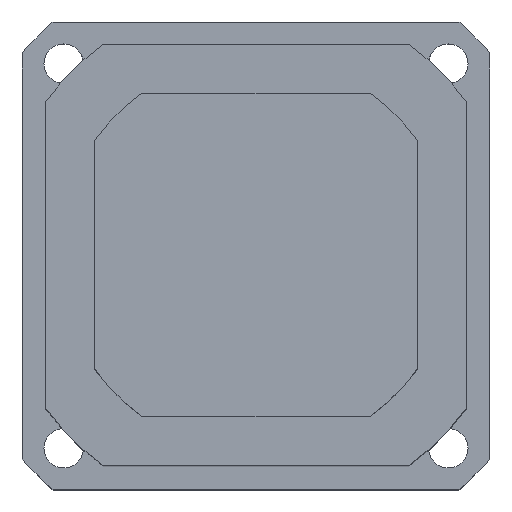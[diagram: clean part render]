
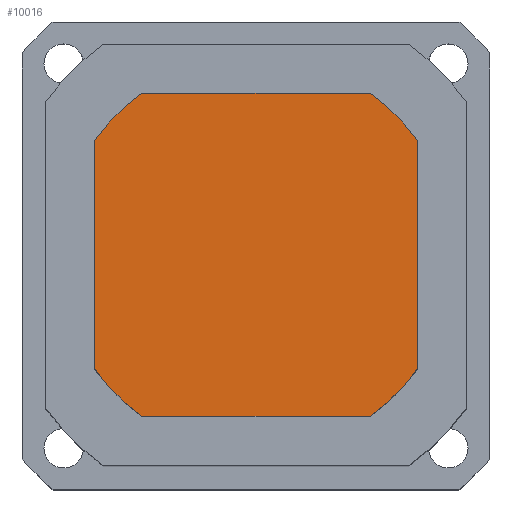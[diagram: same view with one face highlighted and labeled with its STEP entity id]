
A CAD part, top view. The second image highlights one B-rep face of the part: STEP entity #10016.
In plain terms, the highlighted planar face has unit normal (0, 0, 1).
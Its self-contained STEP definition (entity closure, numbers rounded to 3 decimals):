
#2698=CIRCLE('',#10947,60.);
#2699=CIRCLE('',#10949,60.);
#2700=CIRCLE('',#10951,60.);
#2701=CIRCLE('',#10953,60.);
#3664=VERTEX_POINT('',#15680);
#3665=VERTEX_POINT('',#15682);
#3666=VERTEX_POINT('',#15686);
#3667=VERTEX_POINT('',#15688);
#3672=VERTEX_POINT('',#15704);
#3673=VERTEX_POINT('',#15706);
#3674=VERTEX_POINT('',#15710);
#3675=VERTEX_POINT('',#15712);
#4591=LINE('',#15681,#12012);
#4594=LINE('',#15687,#12015);
#4597=LINE('',#15705,#12018);
#4600=LINE('',#15711,#12021);
#5609=EDGE_CURVE('',#3665,#3664,#4591,.T.);
#5612=EDGE_CURVE('',#3667,#3666,#4594,.T.);
#5619=EDGE_CURVE('',#3673,#3672,#4597,.T.);
#5622=EDGE_CURVE('',#3675,#3674,#4600,.T.);
#5624=EDGE_CURVE('',#3667,#3674,#2698,.T.);
#5625=EDGE_CURVE('',#3673,#3666,#2699,.T.);
#5626=EDGE_CURVE('',#3665,#3672,#2700,.T.);
#5627=EDGE_CURVE('',#3675,#3664,#2701,.T.);
#7758=ORIENTED_EDGE('',*,*,#5609,.T.);
#7759=ORIENTED_EDGE('',*,*,#5627,.F.);
#7760=ORIENTED_EDGE('',*,*,#5622,.T.);
#7761=ORIENTED_EDGE('',*,*,#5624,.F.);
#7762=ORIENTED_EDGE('',*,*,#5612,.T.);
#7763=ORIENTED_EDGE('',*,*,#5625,.F.);
#7764=ORIENTED_EDGE('',*,*,#5619,.T.);
#7765=ORIENTED_EDGE('',*,*,#5626,.F.);
#8811=EDGE_LOOP('',(#7758,#7759,#7760,#7761,#7762,#7763,#7764,#7765));
#9471=FACE_BOUND('',#8811,.T.);
#10016=ADVANCED_FACE('',(#9471),#12361,.F.);
#10947=AXIS2_PLACEMENT_3D('',#15715,#18990,#18991);
#10949=AXIS2_PLACEMENT_3D('',#15717,#18994,#18995);
#10951=AXIS2_PLACEMENT_3D('',#15719,#18998,#18999);
#10953=AXIS2_PLACEMENT_3D('',#15721,#19002,#19003);
#10954=AXIS2_PLACEMENT_3D('',#15722,#19004,$);
#12012=VECTOR('',#18960,1.);
#12015=VECTOR('',#18964,1.);
#12018=VECTOR('',#18982,1.);
#12021=VECTOR('',#18986,1.);
#12361=PLANE('',#10954);
#15680=CARTESIAN_POINT('',(-49.,-34.627,45.));
#15681=CARTESIAN_POINT('',(-49.,34.627,45.));
#15682=CARTESIAN_POINT('',(-49.,34.627,45.));
#15686=CARTESIAN_POINT('',(49.,34.627,45.));
#15687=CARTESIAN_POINT('',(49.,-34.627,45.));
#15688=CARTESIAN_POINT('',(49.,-34.627,45.));
#15704=CARTESIAN_POINT('',(-34.627,49.,45.));
#15705=CARTESIAN_POINT('',(34.627,49.,45.));
#15706=CARTESIAN_POINT('',(34.627,49.,45.));
#15710=CARTESIAN_POINT('',(34.627,-49.,45.));
#15711=CARTESIAN_POINT('',(-34.627,-49.,45.));
#15712=CARTESIAN_POINT('',(-34.627,-49.,45.));
#15715=CARTESIAN_POINT('',(0.,0.,45.));
#15717=CARTESIAN_POINT('',(0.,0.,45.));
#15719=CARTESIAN_POINT('',(0.,0.,45.));
#15721=CARTESIAN_POINT('',(0.,0.,45.));
#15722=CARTESIAN_POINT('',(0.,0.,45.));
#18960=DIRECTION('',(0.,-1.,0.));
#18964=DIRECTION('',(0.,1.,0.));
#18982=DIRECTION('',(-1.,0.,0.));
#18986=DIRECTION('',(1.,0.,0.));
#18990=DIRECTION('',(0.,0.,-1.));
#18991=DIRECTION('',(-60.,0.,0.));
#18994=DIRECTION('',(0.,0.,-1.));
#18995=DIRECTION('',(-60.,0.,0.));
#18998=DIRECTION('',(0.,0.,-1.));
#18999=DIRECTION('',(-60.,0.,0.));
#19002=DIRECTION('',(0.,0.,-1.));
#19003=DIRECTION('',(-60.,0.,0.));
#19004=DIRECTION('',(0.,0.,-1.));
